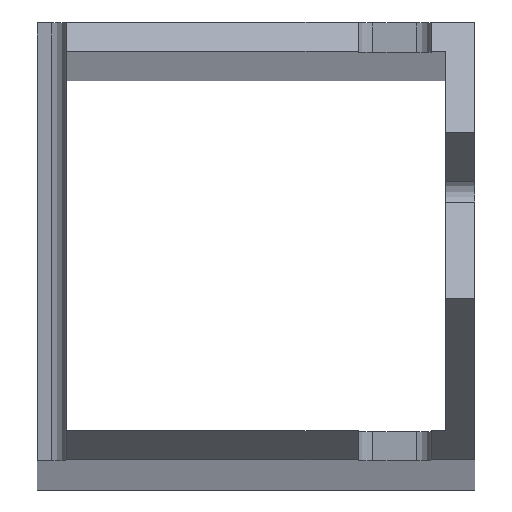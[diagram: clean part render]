
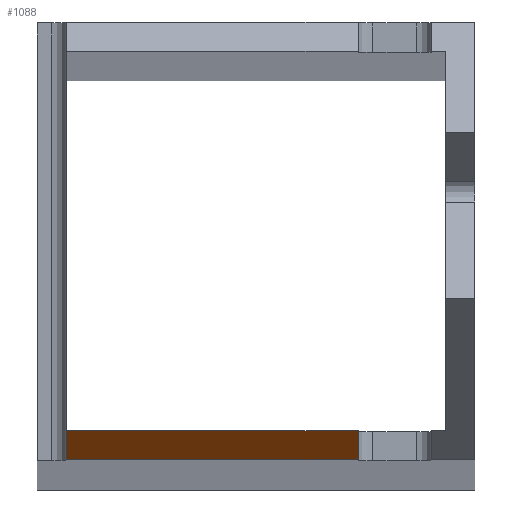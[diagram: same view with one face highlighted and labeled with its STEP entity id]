
A CAD part, top view. The second image highlights one B-rep face of the part: STEP entity #1088.
In plain terms, the highlighted planar face has unit normal (0, -0.738, 0.675).
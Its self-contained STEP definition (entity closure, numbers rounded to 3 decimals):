
#32 = PLANE('',#33);
#33 = AXIS2_PLACEMENT_3D('',#34,#35,#36);
#34 = CARTESIAN_POINT('',(-30.,-30.,0.));
#35 = DIRECTION('',(0.,1.,0.));
#36 = DIRECTION('',(1.,0.,0.));
#145 = VERTEX_POINT('',#146);
#146 = CARTESIAN_POINT('',(-26.,-30.,2363.697));
#159 = PLANE('',#160);
#160 = AXIS2_PLACEMENT_3D('',#161,#162,#163);
#161 = CARTESIAN_POINT('',(-26.,3.345,2323.849));
#162 = DIRECTION('',(-1.,0.,0.));
#163 = DIRECTION('',(0.,0.738,-0.675));
#170 = EDGE_CURVE('',#145,#171,#173,.T.);
#171 = VERTEX_POINT('',#172);
#172 = CARTESIAN_POINT('',(14.,-30.,2363.697));
#173 = SURFACE_CURVE('',#174,(#178,#184),.PCURVE_S1.);
#174 = LINE('',#175,#176);
#175 = CARTESIAN_POINT('',(-36.,-30.,2363.697));
#176 = VECTOR('',#177,1.);
#177 = DIRECTION('',(1.,0.,-0.));
#178 = PCURVE('',#32,#179);
#179 = DEFINITIONAL_REPRESENTATION('',(#180),#183);
#180 = B_SPLINE_CURVE_WITH_KNOTS('',1,(#181,#182),.UNSPECIFIED.,.F.,.F.,
  (2,2),(6.,66.),.PIECEWISE_BEZIER_KNOTS.);
#181 = CARTESIAN_POINT('',(0.,-2363.697));
#182 = CARTESIAN_POINT('',(60.,-2363.697));
#183 = ( GEOMETRIC_REPRESENTATION_CONTEXT(2) 
PARAMETRIC_REPRESENTATION_CONTEXT() REPRESENTATION_CONTEXT('2D SPACE',''
  ) );
#184 = PCURVE('',#185,#190);
#185 = PLANE('',#186);
#186 = AXIS2_PLACEMENT_3D('',#187,#188,#189);
#187 = CARTESIAN_POINT('',(-42.,-1282.676,
    995.033));
#188 = DIRECTION('',(0.,-0.738,0.675));
#189 = DIRECTION('',(0.,0.675,0.738));
#190 = DEFINITIONAL_REPRESENTATION('',(#191),#194);
#191 = B_SPLINE_CURVE_WITH_KNOTS('',1,(#192,#193),.UNSPECIFIED.,.F.,.F.,
  (2,2),(6.,66.),.PIECEWISE_BEZIER_KNOTS.);
#192 = CARTESIAN_POINT('',(1855.381,-12.));
#193 = CARTESIAN_POINT('',(1855.381,-72.));
#194 = ( GEOMETRIC_REPRESENTATION_CONTEXT(2) 
PARAMETRIC_REPRESENTATION_CONTEXT() REPRESENTATION_CONTEXT('2D SPACE',''
  ) );
#211 = PLANE('',#212);
#212 = AXIS2_PLACEMENT_3D('',#213,#214,#215);
#213 = CARTESIAN_POINT('',(14.,3.345,2323.849));
#214 = DIRECTION('',(-1.,0.,0.));
#215 = DIRECTION('',(0.,0.738,-0.675));
#514 = PLANE('',#515);
#515 = AXIS2_PLACEMENT_3D('',#516,#517,#518);
#516 = CARTESIAN_POINT('',(-26.,-26.,0.));
#517 = DIRECTION('',(0.,1.,0.));
#518 = DIRECTION('',(1.,0.,0.));
#1049 = EDGE_CURVE('',#1050,#171,#1052,.T.);
#1050 = VERTEX_POINT('',#1051);
#1051 = CARTESIAN_POINT('',(14.,-26.,2368.068));
#1052 = SURFACE_CURVE('',#1053,(#1057,#1063),.PCURVE_S1.);
#1053 = LINE('',#1054,#1055);
#1054 = CARTESIAN_POINT('',(14.,-658.661,1676.827));
#1055 = VECTOR('',#1056,1.);
#1056 = DIRECTION('',(-0.,-0.675,-0.738));
#1057 = PCURVE('',#211,#1058);
#1058 = DEFINITIONAL_REPRESENTATION('',(#1059),#1062);
#1059 = B_SPLINE_CURVE_WITH_KNOTS('',1,(#1060,#1061),.UNSPECIFIED.,.F.,
  .F.,(2,2),(-963.751,-931.132),.PIECEWISE_BEZIER_KNOTS.);
#1060 = CARTESIAN_POINT('',(-51.502,-39.502));
#1061 = CARTESIAN_POINT('',(-51.502,-6.882));
#1062 = ( GEOMETRIC_REPRESENTATION_CONTEXT(2) 
PARAMETRIC_REPRESENTATION_CONTEXT() REPRESENTATION_CONTEXT('2D SPACE',''
  ) );
#1063 = PCURVE('',#185,#1064);
#1064 = DEFINITIONAL_REPRESENTATION('',(#1065),#1068);
#1065 = B_SPLINE_CURVE_WITH_KNOTS('',1,(#1066,#1067),.UNSPECIFIED.,.F.,
  .F.,(2,2),(-963.751,-931.132),.PIECEWISE_BEZIER_KNOTS.);
#1066 = CARTESIAN_POINT('',(1888.,-56.));
#1067 = CARTESIAN_POINT('',(1855.381,-56.));
#1068 = ( GEOMETRIC_REPRESENTATION_CONTEXT(2) 
PARAMETRIC_REPRESENTATION_CONTEXT() REPRESENTATION_CONTEXT('2D SPACE',''
  ) );
#1088 = ADVANCED_FACE('',(#1089),#185,.T.);
#1089 = FACE_BOUND('',#1090,.T.);
#1090 = EDGE_LOOP('',(#1091,#1112,#1131,#1132));
#1091 = ORIENTED_EDGE('',*,*,#1092,.F.);
#1092 = EDGE_CURVE('',#1093,#1050,#1095,.T.);
#1093 = VERTEX_POINT('',#1094);
#1094 = CARTESIAN_POINT('',(-26.,-26.,2368.068));
#1095 = SURFACE_CURVE('',#1096,(#1100,#1106),.PCURVE_S1.);
#1096 = LINE('',#1097,#1098);
#1097 = CARTESIAN_POINT('',(-34.,-26.,2368.068));
#1098 = VECTOR('',#1099,1.);
#1099 = DIRECTION('',(1.,0.,-0.));
#1100 = PCURVE('',#185,#1101);
#1101 = DEFINITIONAL_REPRESENTATION('',(#1102),#1105);
#1102 = B_SPLINE_CURVE_WITH_KNOTS('',1,(#1103,#1104),.UNSPECIFIED.,.F.,
  .F.,(2,2),(8.,60.),.PIECEWISE_BEZIER_KNOTS.);
#1103 = CARTESIAN_POINT('',(1861.305,-16.));
#1104 = CARTESIAN_POINT('',(1861.305,-68.));
#1105 = ( GEOMETRIC_REPRESENTATION_CONTEXT(2) 
PARAMETRIC_REPRESENTATION_CONTEXT() REPRESENTATION_CONTEXT('2D SPACE',''
  ) );
#1106 = PCURVE('',#514,#1107);
#1107 = DEFINITIONAL_REPRESENTATION('',(#1108),#1111);
#1108 = B_SPLINE_CURVE_WITH_KNOTS('',1,(#1109,#1110),.UNSPECIFIED.,.F.,
  .F.,(2,2),(8.,60.),.PIECEWISE_BEZIER_KNOTS.);
#1109 = CARTESIAN_POINT('',(0.,-2368.068));
#1110 = CARTESIAN_POINT('',(52.,-2368.068));
#1111 = ( GEOMETRIC_REPRESENTATION_CONTEXT(2) 
PARAMETRIC_REPRESENTATION_CONTEXT() REPRESENTATION_CONTEXT('2D SPACE',''
  ) );
#1112 = ORIENTED_EDGE('',*,*,#1113,.T.);
#1113 = EDGE_CURVE('',#1093,#145,#1114,.T.);
#1114 = SURFACE_CURVE('',#1115,(#1119,#1125),.PCURVE_S1.);
#1115 = LINE('',#1116,#1117);
#1116 = CARTESIAN_POINT('',(-26.,-658.661,1676.827));
#1117 = VECTOR('',#1118,1.);
#1118 = DIRECTION('',(-0.,-0.675,-0.738));
#1119 = PCURVE('',#185,#1120);
#1120 = DEFINITIONAL_REPRESENTATION('',(#1121),#1124);
#1121 = B_SPLINE_CURVE_WITH_KNOTS('',1,(#1122,#1123),.UNSPECIFIED.,.F.,
  .F.,(2,2),(-963.751,-931.132),.PIECEWISE_BEZIER_KNOTS.);
#1122 = CARTESIAN_POINT('',(1888.,-16.));
#1123 = CARTESIAN_POINT('',(1855.381,-16.));
#1124 = ( GEOMETRIC_REPRESENTATION_CONTEXT(2) 
PARAMETRIC_REPRESENTATION_CONTEXT() REPRESENTATION_CONTEXT('2D SPACE',''
  ) );
#1125 = PCURVE('',#159,#1126);
#1126 = DEFINITIONAL_REPRESENTATION('',(#1127),#1130);
#1127 = B_SPLINE_CURVE_WITH_KNOTS('',1,(#1128,#1129),.UNSPECIFIED.,.F.,
  .F.,(2,2),(-963.751,-931.132),.PIECEWISE_BEZIER_KNOTS.);
#1128 = CARTESIAN_POINT('',(-51.502,-39.502));
#1129 = CARTESIAN_POINT('',(-51.502,-6.882));
#1130 = ( GEOMETRIC_REPRESENTATION_CONTEXT(2) 
PARAMETRIC_REPRESENTATION_CONTEXT() REPRESENTATION_CONTEXT('2D SPACE',''
  ) );
#1131 = ORIENTED_EDGE('',*,*,#170,.T.);
#1132 = ORIENTED_EDGE('',*,*,#1049,.F.);
